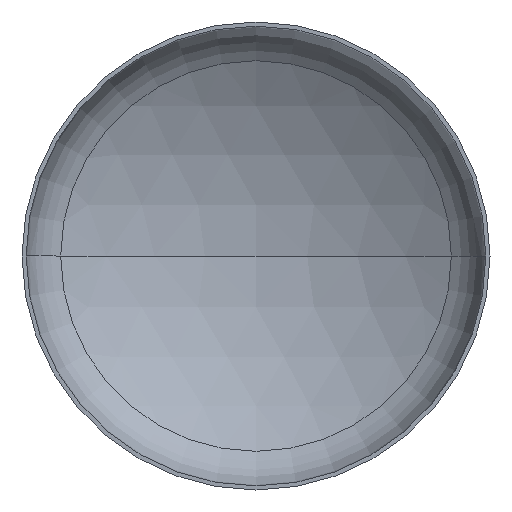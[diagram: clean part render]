
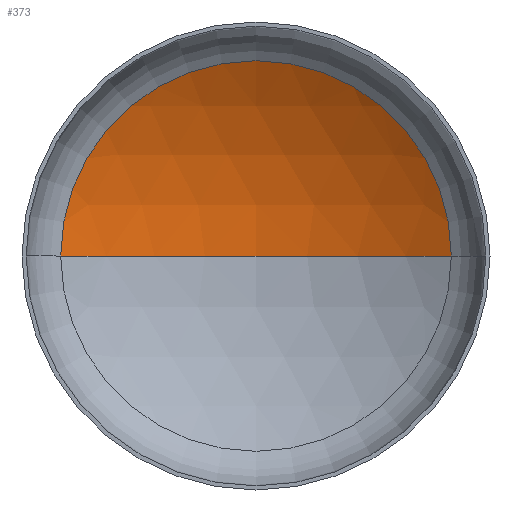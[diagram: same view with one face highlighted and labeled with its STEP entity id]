
A CAD part, front view. The second image highlights one B-rep face of the part: STEP entity #373.
In plain terms, the highlighted spherical face has radius 2720 mm.
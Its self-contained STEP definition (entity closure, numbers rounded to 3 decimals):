
#14 = AXIS2_PLACEMENT_3D ( 'NONE', #293, #297, #39 ) ;
#18 = AXIS2_PLACEMENT_3D ( 'NONE', #125, #118, #123 ) ;
#24 = CARTESIAN_POINT ( 'NONE',  ( 1418.861, 537.912, 0. ) ) ;
#36 = EDGE_LOOP ( 'NONE', ( #151, #234, #144 ) ) ;
#39 = DIRECTION ( 'NONE',  ( -1., 0., 0. ) ) ;
#79 = VERTEX_POINT ( 'NONE', #285 ) ;
#96 = DIRECTION ( 'NONE',  ( 0., 0., -1. ) ) ;
#104 = FACE_OUTER_BOUND ( 'NONE', #36, .T. ) ;
#105 = CARTESIAN_POINT ( 'NONE',  ( 0., -1782.699, 0. ) ) ;
#118 = DIRECTION ( 'NONE',  ( 0., -1., 0. ) ) ;
#120 = DIRECTION ( 'NONE',  ( 0., 0., 1. ) ) ;
#123 = DIRECTION ( 'NONE',  ( 1., 0., 0. ) ) ;
#124 = VERTEX_POINT ( 'NONE', #162 ) ;
#125 = CARTESIAN_POINT ( 'NONE',  ( 0., 537.912, 0. ) ) ;
#144 = ORIENTED_EDGE ( 'NONE', *, *, #336, .T. ) ;
#151 = ORIENTED_EDGE ( 'NONE', *, *, #385, .F. ) ;
#162 = CARTESIAN_POINT ( 'NONE',  ( 0., 937.301, 0. ) ) ;
#211 = VERTEX_POINT ( 'NONE', #24 ) ;
#214 = CIRCLE ( 'NONE', #14, 2720. ) ;
#234 = ORIENTED_EDGE ( 'NONE', *, *, #344, .T. ) ;
#283 = DIRECTION ( 'NONE',  ( -1., 0., 0. ) ) ;
#285 = CARTESIAN_POINT ( 'NONE',  ( -1418.861, 537.912, 0. ) ) ;
#290 = CIRCLE ( 'NONE', #18, 1418.861 ) ;
#293 = CARTESIAN_POINT ( 'NONE',  ( 0., -1782.699, 0. ) ) ;
#297 = DIRECTION ( 'NONE',  ( 0., 0., -1. ) ) ;
#302 = CARTESIAN_POINT ( 'NONE',  ( 0., -1782.699, 0. ) ) ;
#315 = AXIS2_PLACEMENT_3D ( 'NONE', #105, #96, #283 ) ;
#324 = DIRECTION ( 'NONE',  ( 1., 0., 0. ) ) ;
#326 = CIRCLE ( 'NONE', #334, 2720. ) ;
#333 = SPHERICAL_SURFACE ( 'NONE', #315, 2720. ) ;
#334 = AXIS2_PLACEMENT_3D ( 'NONE', #302, #120, #324 ) ;
#336 = EDGE_CURVE ( 'NONE', #211, #79, #290, .T. ) ;
#344 = EDGE_CURVE ( 'NONE', #124, #211, #214, .T. ) ;
#373 = ADVANCED_FACE ( 'NONE', ( #104 ), #333, .F. ) ;
#385 = EDGE_CURVE ( 'NONE', #124, #79, #326, .T. ) ;
